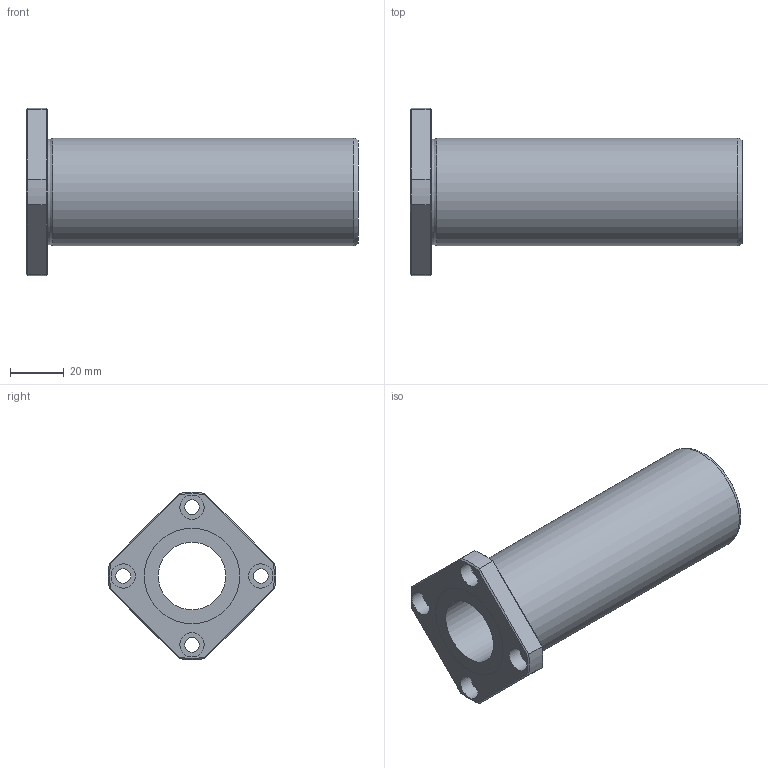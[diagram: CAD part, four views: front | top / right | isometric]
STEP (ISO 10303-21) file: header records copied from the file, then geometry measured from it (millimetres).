
FILE_DESCRIPTION((''),'2;1');
FILE_NAME('D:\製品 (図面)\カタログ用3D\メンテナンスフリー関連\STEP形式\LFDK-MF\LFDK25MF.stp','2010-06-01T15:44:09',('Tsuchiya'),(''),'Autodesk Inventor 10','Autodesk Inventor 10','');
FILE_SCHEMA(('AUTOMOTIVE_DESIGN { 1 0 10303 214 1 1 1 1 }'));
Length unit declared in the file: millimetre
Products named in the file (1): LFDK25MF
Bounding box: 123 x 61.92 x 61.92 mm (x, y, z)
Volume: 101603.3 mm3; surface area: 29933.6 mm2
Topology: 1 solids, 1 shells, 47 faces, 96 edges, 58 vertices
Faces by surface type: plane 21, cylinder 16, cone 8, torus 1, bspline 1
Full cylindrical faces by diameter (mm): 5.5 x4, 9 x4, 25 x1, 35.3 x2, 40 x1
Entity records: 1275 total; most frequent: CARTESIAN_POINT 298, DIRECTION 202, ORIENTED_EDGE 164, AXIS2_PLACEMENT_3D 89, EDGE_CURVE 82, EDGE_LOOP 78, VERTEX_POINT 58, FACE_OUTER_BOUND 47
